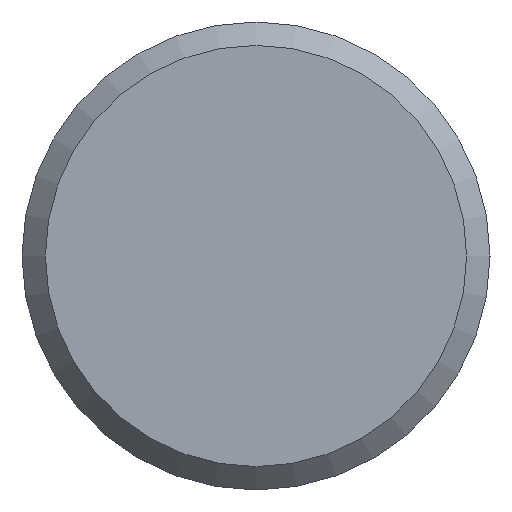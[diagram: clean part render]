
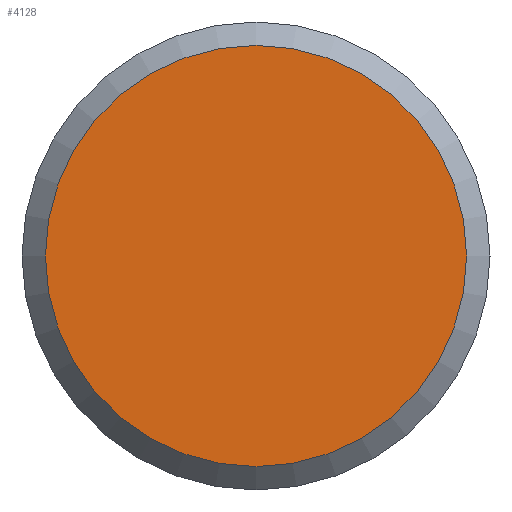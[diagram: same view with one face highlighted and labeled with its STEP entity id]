
A CAD part, left-side view. The second image highlights one B-rep face of the part: STEP entity #4128.
In plain terms, the highlighted planar face has unit normal (-1, 0, 0).
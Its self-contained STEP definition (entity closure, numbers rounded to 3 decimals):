
#1485=PLANE('',#3798);
#1539=ORIENTED_EDGE('',*,*,#2097,.F.);
#1817=CIRCLE('',#3797,4.5);
#1957=VERTEX_POINT('',#3373);
#2097=EDGE_CURVE('',#1957,#1957,#1817,.T.);
#2239=EDGE_LOOP('',(#1539));
#2519=FACE_BOUND('',#2239,.T.);
#2803=DIRECTION('',(1.,0.,0.));
#2804=DIRECTION('',(0.,-4.5,0.));
#2805=DIRECTION('',(-1.,0.,0.));
#2806=DIRECTION('',(0.,1.,0.));
#3373=CARTESIAN_POINT('',(77.461,206.874,0.));
#3374=CARTESIAN_POINT('',(77.461,211.374,0.));
#3375=CARTESIAN_POINT('',(77.461,211.374,0.));
#3797=AXIS2_PLACEMENT_3D('',#3374,#2803,#2804);
#3798=AXIS2_PLACEMENT_3D('',#3375,#2805,#2806);
#4128=ADVANCED_FACE('',(#2519),#1485,.T.);
